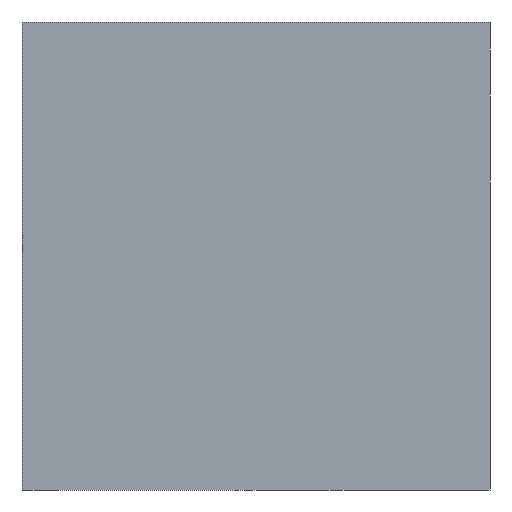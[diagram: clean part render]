
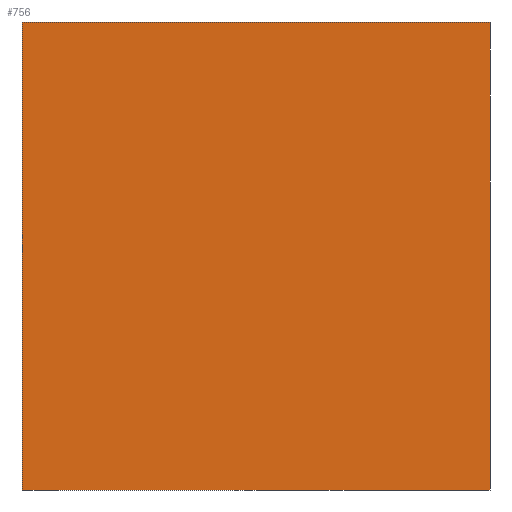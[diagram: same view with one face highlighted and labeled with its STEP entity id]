
A CAD part, front view. The second image highlights one B-rep face of the part: STEP entity #756.
In plain terms, the highlighted planar face has unit normal (0, -1, 0).
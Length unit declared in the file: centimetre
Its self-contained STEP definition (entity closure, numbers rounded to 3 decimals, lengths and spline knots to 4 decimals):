
#67 = EDGE_CURVE ( 'NONE', #833, #122, #641, .T. ) ;
#99 = ORIENTED_EDGE ( 'NONE', *, *, #835, .F. ) ;
#107 = DIRECTION ( 'NONE',  ( 0., 0., -1. ) ) ;
#111 = ORIENTED_EDGE ( 'NONE', *, *, #306, .T. ) ;
#122 = VERTEX_POINT ( 'NONE', #328 ) ;
#124 = AXIS2_PLACEMENT_3D ( 'NONE', #403, #208, #469 ) ;
#135 = VECTOR ( 'NONE', #619, 100. ) ;
#143 = CARTESIAN_POINT ( 'NONE',  ( 1000., 0., 0. ) ) ;
#165 = LINE ( 'NONE', #289, #135 ) ;
#178 = VERTEX_POINT ( 'NONE', #452 ) ;
#192 = VECTOR ( 'NONE', #316, 100. ) ;
#208 = DIRECTION ( 'NONE',  ( 0., 1., 0. ) ) ;
#212 = CARTESIAN_POINT ( 'NONE',  ( 0., 0., 1000. ) ) ;
#249 = ORIENTED_EDGE ( 'NONE', *, *, #661, .T. ) ;
#289 = CARTESIAN_POINT ( 'NONE',  ( 0., 0., 1000. ) ) ;
#295 = DIRECTION ( 'NONE',  ( 1., 0., 0. ) ) ;
#300 = LINE ( 'NONE', #351, #819 ) ;
#306 = EDGE_CURVE ( 'NONE', #833, #178, #165, .T. ) ;
#315 = CARTESIAN_POINT ( 'NONE',  ( 0., 0., 1000. ) ) ;
#316 = DIRECTION ( 'NONE',  ( 1., 0., 0. ) ) ;
#328 = CARTESIAN_POINT ( 'NONE',  ( 1000., 0., 1000. ) ) ;
#351 = CARTESIAN_POINT ( 'NONE',  ( 0., 0., 0. ) ) ;
#358 = LINE ( 'NONE', #689, #571 ) ;
#403 = CARTESIAN_POINT ( 'NONE',  ( 0., 0., 1000. ) ) ;
#414 = FACE_OUTER_BOUND ( 'NONE', #823, .T. ) ;
#436 = VERTEX_POINT ( 'NONE', #143 ) ;
#452 = CARTESIAN_POINT ( 'NONE',  ( 0., 0., 0. ) ) ;
#469 = DIRECTION ( 'NONE',  ( 0., 0., 1. ) ) ;
#473 = PLANE ( 'NONE',  #124 ) ;
#510 = ORIENTED_EDGE ( 'NONE', *, *, #67, .F. ) ;
#571 = VECTOR ( 'NONE', #107, 100. ) ;
#619 = DIRECTION ( 'NONE',  ( 0., 0., -1. ) ) ;
#641 = LINE ( 'NONE', #212, #192 ) ;
#661 = EDGE_CURVE ( 'NONE', #178, #436, #300, .T. ) ;
#689 = CARTESIAN_POINT ( 'NONE',  ( 1000., 0., 1000. ) ) ;
#756 = ADVANCED_FACE ( 'NONE', ( #414 ), #473, .F. ) ;
#819 = VECTOR ( 'NONE', #295, 100. ) ;
#823 = EDGE_LOOP ( 'NONE', ( #249, #99, #510, #111 ) ) ;
#833 = VERTEX_POINT ( 'NONE', #315 ) ;
#835 = EDGE_CURVE ( 'NONE', #122, #436, #358, .T. ) ;
